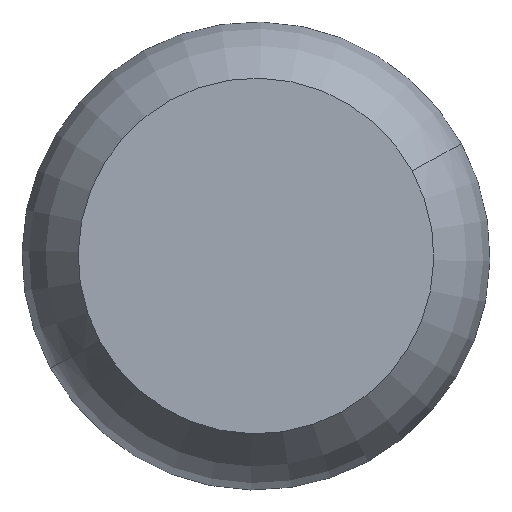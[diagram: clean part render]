
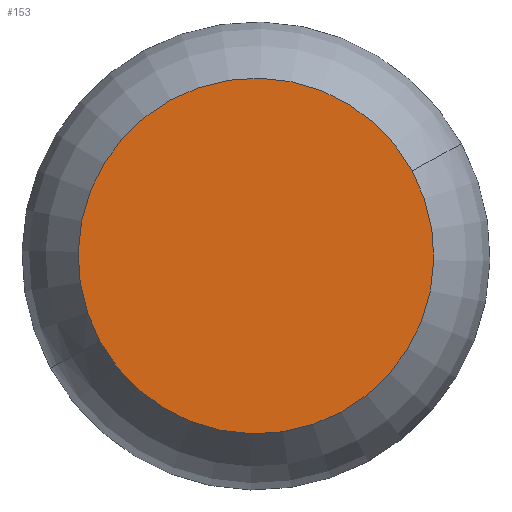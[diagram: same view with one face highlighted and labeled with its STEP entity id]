
A CAD part, front view. The second image highlights one B-rep face of the part: STEP entity #153.
In plain terms, the highlighted planar face has unit normal (0, -1, 0).
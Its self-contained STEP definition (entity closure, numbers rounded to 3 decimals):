
#66=CARTESIAN_POINT('Axis2P3D Location',(0.,0.,0.)) ;
#70=CARTESIAN_POINT('Vertex',(89.513,0.,48.901)) ;
#72=CARTESIAN_POINT('Vertex',(-89.513,0.,-48.901)) ;
#127=CARTESIAN_POINT('Axis2P3D Location',(0.,0.,0.)) ;
#144=CARTESIAN_POINT('Axis2P3D Location',(0.,0.,0.)) ;
#67=DIRECTION('Axis2P3D Direction',(0.,-1.,0.)) ;
#128=DIRECTION('Axis2P3D Direction',(0.,-1.,0.)) ;
#145=DIRECTION('Axis2P3D Direction',(0.,-1.,0.)) ;
#146=DIRECTION('Axis2P3D XDirection',(1.,0.,0.)) ;
#68=AXIS2_PLACEMENT_3D('Circle Axis2P3D',#66,#67,$) ;
#129=AXIS2_PLACEMENT_3D('Circle Axis2P3D',#127,#128,$) ;
#147=AXIS2_PLACEMENT_3D('Plane Axis2P3D',#144,#145,#146) ;
#150=ORIENTED_EDGE('',*,*,#74,.T.) ;
#151=ORIENTED_EDGE('',*,*,#131,.T.) ;
#153=ADVANCED_FACE('PartBody',(#152),#148,.T.) ;
#69=CIRCLE('generated circle',#68,102.) ;
#130=CIRCLE('generated circle',#129,102.) ;
#74=EDGE_CURVE('',#71,#73,#69,.T.) ;
#131=EDGE_CURVE('',#73,#71,#130,.T.) ;
#149=EDGE_LOOP('',(#150,#151)) ;
#152=FACE_OUTER_BOUND('',#149,.T.) ;
#148=PLANE('',#147) ;
#71=VERTEX_POINT('',#70) ;
#73=VERTEX_POINT('',#72) ;
